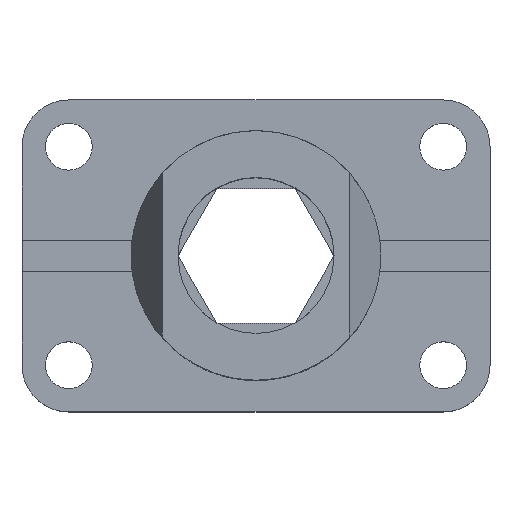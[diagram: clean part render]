
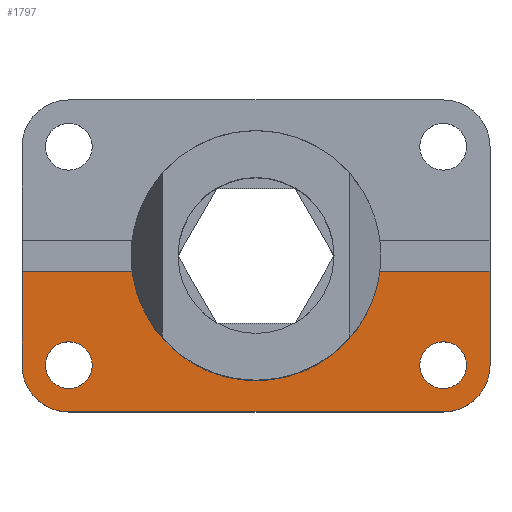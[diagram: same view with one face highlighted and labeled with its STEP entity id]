
A CAD part, top view. The second image highlights one B-rep face of the part: STEP entity #1797.
In plain terms, the highlighted planar face has unit normal (0, 0, 1).
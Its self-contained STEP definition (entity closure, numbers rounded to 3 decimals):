
#210=CARTESIAN_POINT('',(-39.686,-5.,0.));
#211=VERTEX_POINT('',#210);
#218=CARTESIAN_POINT('',(39.686,-5.,0.));
#219=VERTEX_POINT('',#218);
#220=CARTESIAN_POINT('',(0.,0.,0.));
#221=DIRECTION('',(0.,0.,1.));
#222=DIRECTION('',(-1.,0.,0.));
#223=AXIS2_PLACEMENT_3D('',#220,#221,#222);
#224=CIRCLE('',#223,40.);
#225=EDGE_CURVE('',#211,#219,#224,.T.);
#1234=CARTESIAN_POINT('',(-75.,-35.,0.));
#1235=VERTEX_POINT('',#1234);
#1236=CARTESIAN_POINT('',(-60.,-50.,0.));
#1237=VERTEX_POINT('',#1236);
#1238=CARTESIAN_POINT('',(-60.,-35.,0.));
#1239=DIRECTION('',(0.,0.,1.));
#1240=DIRECTION('',(-1.,0.,0.));
#1241=AXIS2_PLACEMENT_3D('',#1238,#1239,#1240);
#1242=CIRCLE('',#1241,15.);
#1243=EDGE_CURVE('',#1235,#1237,#1242,.T.);
#1276=CARTESIAN_POINT('',(60.,-50.,0.));
#1277=VERTEX_POINT('',#1276);
#1278=CARTESIAN_POINT('',(-60.,-50.,0.));
#1279=DIRECTION('',(1.,-0.,0.));
#1280=VECTOR('',#1279,120.);
#1281=LINE('',#1278,#1280);
#1282=EDGE_CURVE('',#1237,#1277,#1281,.T.);
#1307=CARTESIAN_POINT('',(75.,-35.,0.));
#1308=VERTEX_POINT('',#1307);
#1309=CARTESIAN_POINT('',(60.,-35.,0.));
#1310=DIRECTION('',(0.,0.,1.));
#1311=DIRECTION('',(-1.,0.,0.));
#1312=AXIS2_PLACEMENT_3D('',#1309,#1310,#1311);
#1313=CIRCLE('',#1312,15.);
#1314=EDGE_CURVE('',#1277,#1308,#1313,.T.);
#1340=CARTESIAN_POINT('',(75.,-5.,-0.));
#1341=VERTEX_POINT('',#1340);
#1342=CARTESIAN_POINT('',(75.,-35.,0.));
#1343=DIRECTION('',(0.,1.,0.));
#1344=VECTOR('',#1343,30.);
#1345=LINE('',#1342,#1344);
#1346=EDGE_CURVE('',#1308,#1341,#1345,.T.);
#1503=CARTESIAN_POINT('',(67.5,-35.,0.));
#1504=VERTEX_POINT('',#1503);
#1513=CARTESIAN_POINT('',(52.5,-35.,0.));
#1514=VERTEX_POINT('',#1513);
#1515=CARTESIAN_POINT('',(60.,-35.,0.));
#1516=DIRECTION('',(0.,0.,1.));
#1517=DIRECTION('',(-1.,0.,0.));
#1518=AXIS2_PLACEMENT_3D('',#1515,#1516,#1517);
#1519=CIRCLE('',#1518,7.5);
#1520=EDGE_CURVE('',#1504,#1514,#1519,.T.);
#1522=CARTESIAN_POINT('',(60.,-35.,0.));
#1523=DIRECTION('',(0.,0.,1.));
#1524=DIRECTION('',(-1.,0.,0.));
#1525=AXIS2_PLACEMENT_3D('',#1522,#1523,#1524);
#1526=CIRCLE('',#1525,7.5);
#1527=EDGE_CURVE('',#1514,#1504,#1526,.T.);
#1554=CARTESIAN_POINT('',(-52.5,-35.,0.));
#1555=VERTEX_POINT('',#1554);
#1564=CARTESIAN_POINT('',(-67.5,-35.,0.));
#1565=VERTEX_POINT('',#1564);
#1566=CARTESIAN_POINT('',(-60.,-35.,0.));
#1567=DIRECTION('',(0.,0.,1.));
#1568=DIRECTION('',(-1.,0.,0.));
#1569=AXIS2_PLACEMENT_3D('',#1566,#1567,#1568);
#1570=CIRCLE('',#1569,7.5);
#1571=EDGE_CURVE('',#1555,#1565,#1570,.T.);
#1573=CARTESIAN_POINT('',(-60.,-35.,0.));
#1574=DIRECTION('',(0.,0.,1.));
#1575=DIRECTION('',(-1.,0.,0.));
#1576=AXIS2_PLACEMENT_3D('',#1573,#1574,#1575);
#1577=CIRCLE('',#1576,7.5);
#1578=EDGE_CURVE('',#1565,#1555,#1577,.T.);
#1614=CARTESIAN_POINT('',(-75.,-5.,-0.));
#1615=VERTEX_POINT('',#1614);
#1616=CARTESIAN_POINT('',(-75.,-5.,0.));
#1617=DIRECTION('',(-0.,-1.,0.));
#1618=VECTOR('',#1617,30.);
#1619=LINE('',#1616,#1618);
#1620=EDGE_CURVE('',#1615,#1235,#1619,.T.);
#1764=CARTESIAN_POINT('',(0.,0.,0.));
#1765=DIRECTION('',(0.,0.,1.));
#1766=DIRECTION('',(-1.,0.,0.));
#1767=AXIS2_PLACEMENT_3D('',#1764,#1765,#1766);
#1768=PLANE('',#1767);
#1769=CARTESIAN_POINT('',(39.686,-5.,0.));
#1770=DIRECTION('',(1.,0.,-0.));
#1771=VECTOR('',#1770,35.314);
#1772=LINE('',#1769,#1771);
#1773=EDGE_CURVE('',#219,#1341,#1772,.T.);
#1774=ORIENTED_EDGE('',*,*,#1773,.F.);
#1775=ORIENTED_EDGE('',*,*,#225,.F.);
#1776=CARTESIAN_POINT('',(-75.,-5.,0.));
#1777=DIRECTION('',(1.,0.,-0.));
#1778=VECTOR('',#1777,35.314);
#1779=LINE('',#1776,#1778);
#1780=EDGE_CURVE('',#1615,#211,#1779,.T.);
#1781=ORIENTED_EDGE('',*,*,#1780,.F.);
#1782=ORIENTED_EDGE('',*,*,#1620,.T.);
#1783=ORIENTED_EDGE('',*,*,#1243,.T.);
#1784=ORIENTED_EDGE('',*,*,#1282,.T.);
#1785=ORIENTED_EDGE('',*,*,#1314,.T.);
#1786=ORIENTED_EDGE('',*,*,#1346,.T.);
#1787=EDGE_LOOP('',(#1774,#1775,#1781,#1782,#1783,#1784,#1785,#1786));
#1788=FACE_BOUND('',#1787,.T.);
#1789=ORIENTED_EDGE('',*,*,#1571,.F.);
#1790=ORIENTED_EDGE('',*,*,#1578,.F.);
#1791=EDGE_LOOP('',(#1789,#1790));
#1792=FACE_BOUND('',#1791,.T.);
#1793=ORIENTED_EDGE('',*,*,#1520,.F.);
#1794=ORIENTED_EDGE('',*,*,#1527,.F.);
#1795=EDGE_LOOP('',(#1793,#1794));
#1796=FACE_BOUND('',#1795,.T.);
#1797=ADVANCED_FACE('',(#1788,#1792,#1796),#1768,.T.);
